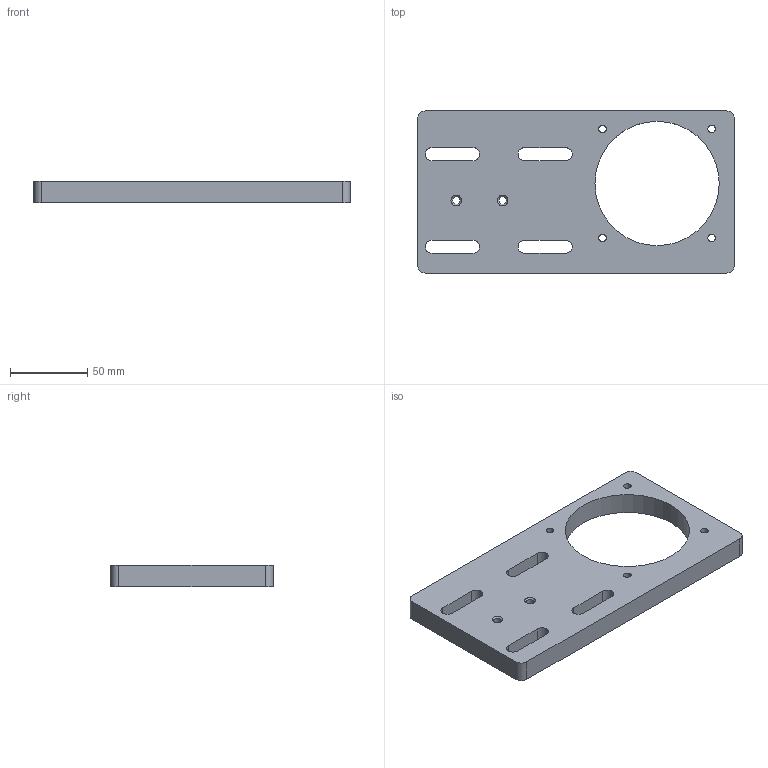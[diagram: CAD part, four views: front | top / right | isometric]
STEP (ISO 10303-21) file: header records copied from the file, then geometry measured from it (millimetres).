
FILE_DESCRIPTION(('STEP AP203'), '1');
FILE_NAME('ﾒﾏﾏﾔ1800.01.01.17.001 - ﾒ聰', '', ('UNSPECIFIED'), ('UNSPECIFIED'), 'C3D Converter', 'C3D Toolkit', '');
FILE_SCHEMA(('CONFIG_CONTROL_DESIGN'));
Length unit declared in the file: millimetre
Products named in the file (1): ТППФ1800.01.01.17.001
Bounding box: 205 x 105 x 14 mm (x, y, z)
Volume: 212355.8 mm3; surface area: 48159.1 mm2
Topology: 1 solids, 1 shells, 39 faces, 105 edges, 68 vertices
Faces by surface type: cylinder 19, plane 14, cone 6
Full cylindrical faces by diameter (mm): 4.917 x6, 80.5 x1
Entity records: 1566 total; most frequent: DIRECTION 216, CARTESIAN_POINT 200, ORIENTED_EDGE 184, EDGE_CURVE 92, AXIS2_PLACEMENT_3D 84, EDGE_LOOP 74, VERTEX_POINT 68, FACE_BOUND 48
